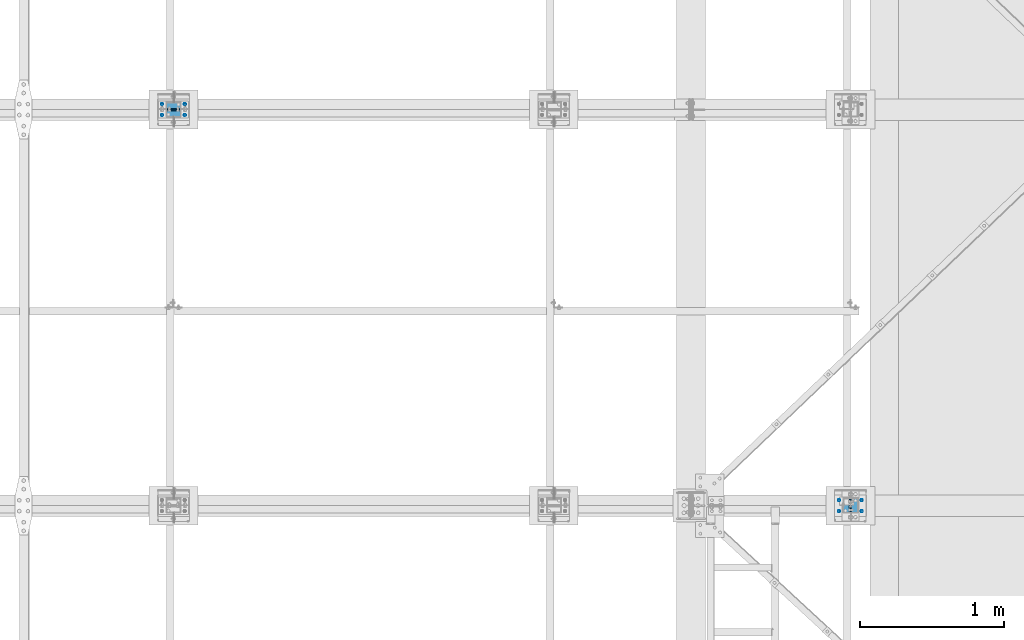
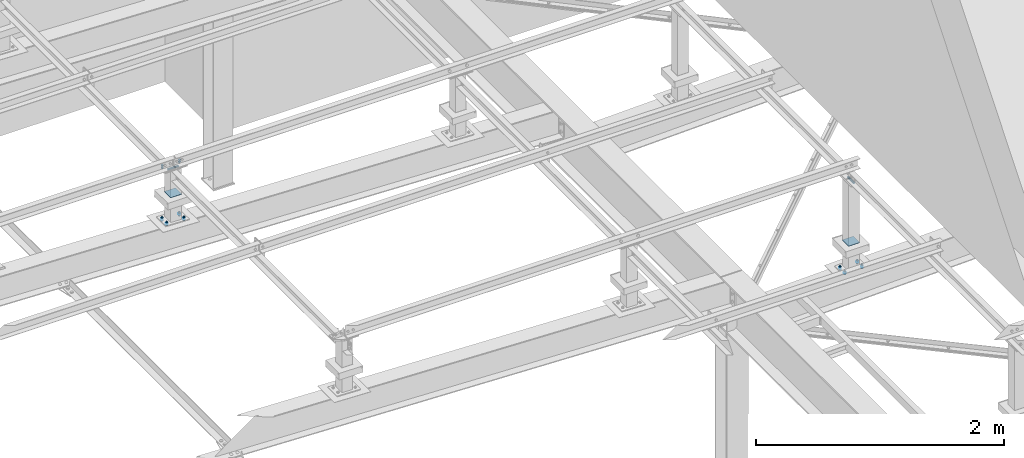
# One storey, part 191 of 3134: 9 mechanical fasteners, 6 elements without a shape of their own.
"""IFC2X3 building model written with IfcOpenShell, lengths in millimetres."""

from ifc_helpers import new_model, si_unit, frame, origin_with_axes, place, context, subcontext, project, spatial, faceted_brep, source, transform, mapped, material, type_object, element, aggregate, save


model = new_model("IFC2X3")

# Units and contexts
model_context = context("Model", 3, precision=1e-05, world=origin_with_axes())
body_context = subcontext(model_context, "Body", "Model", "MODEL_VIEW")
ifc_project = project(units=[si_unit("LENGTHUNIT", "METRE", prefix="MILLI"), si_unit("AREAUNIT", "SQUARE_METRE"), si_unit("VOLUMEUNIT", "CUBIC_METRE"), si_unit("MASSUNIT", "GRAM", prefix="KILO"), si_unit("TIMEUNIT", "SECOND"), si_unit("PLANEANGLEUNIT", "RADIAN"), si_unit("SOLIDANGLEUNIT", "STERADIAN"), si_unit("THERMODYNAMICTEMPERATUREUNIT", "DEGREE_CELSIUS"), si_unit("LUMINOUSINTENSITYUNIT", "LUMEN")], contexts=[model_context])

# Site, building, storey
site_placement = place(None, origin_with_axes())
site = spatial("IfcSite", under=ifc_project, at=site_placement, CompositionType="ELEMENT")
building_placement = place(site_placement, origin_with_axes())
building = spatial("IfcBuilding", under=site, at=building_placement, Name="Undefined", CompositionType="ELEMENT")
storey_placement = place(building_placement, origin_with_axes())
storey = spatial("IfcBuildingStorey", under=building, at=storey_placement, Name="Undefined", CompositionType="ELEMENT", Elevation=0.0)

# Assembly, mechanical fastener
assembly_1_placement = place(storey_placement, origin_with_axes())
assembly_1 = element("IfcElementAssembly", 1, at=assembly_1_placement, inside=storey, AssemblyPlace="NOTDEFINED", PredefinedType="RIGID_FRAME")
ifc_material_1 = material(Name="8.8")
mechanical_fastener_type = type_object("IfcMechanicalFastenerType", Name="Bolt assembly")
shared_shape_1 = source(origin_with_axes(), body_context, "Body", "Brep", [
    faceted_brep([(10.9696551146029, -14.0, 0.0), (5.48482755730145, -14.0, 9.5), (-5.48482755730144, -14.0, 9.5), (-10.9696551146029, -14.0, 1.34339530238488e-15), (-5.48482755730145, -14.0, -9.5), (5.48482755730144, -14.0, -9.50000000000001), (5.48482755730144, -6.0, -9.50000000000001), (-5.48482755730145, -6.0, -9.5), (-10.9696551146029, -6.0, 1.34339530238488e-15), (-5.48482755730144, -6.0, 9.5), (5.48482755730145, -6.0, 9.5), (10.9696551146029, -6.0, 0.0), (6.0, -6.0, 0.0), (5.19615242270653, -6.0, 3.00000000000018), (2.99999999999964, -6.0, 5.19615242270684), (-6.21801588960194e-13, -6.0, 6.0), (-3.00000000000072, -6.0, 5.19615242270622), (-5.19615242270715, -6.0, 2.9999999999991), (-6.0, -6.0, -1.24360317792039e-12), (-5.19615242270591, -6.0, -3.00000000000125), (-2.99999999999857, -6.0, -5.19615242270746), (1.85874342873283e-12, -6.0, -6.0), (3.00000000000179, -6.0, -5.1961524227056), (5.19615242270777, -6.0, -2.99999999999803), (5.19615242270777, 24.0, -2.99999999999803), (3.00000000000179, 24.0, -5.1961524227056), (1.85874342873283e-12, 24.0, -6.0), (-2.99999999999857, 24.0, -5.19615242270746), (-5.19615242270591, 24.0, -3.00000000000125), (-6.0, 24.0, -1.24360317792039e-12), (-5.19615242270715, 24.0, 2.9999999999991), (-3.00000000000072, 24.0, 5.19615242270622), (-6.21801588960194e-13, 24.0, 6.0), (2.99999999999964, 24.0, 5.19615242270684), (5.19615242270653, 24.0, 3.00000000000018), (6.0, 24.0, 0.0), (10.9696551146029, 6.00000000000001, 0.0), (5.48482755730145, 6.00000000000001, 9.5), (-5.48482755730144, 6.00000000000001, 9.5), (-10.9696551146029, 6.00000000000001, 1.34339530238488e-15), (-5.48482755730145, 6.00000000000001, -9.5), (5.48482755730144, 6.00000000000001, -9.50000000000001), (5.48482755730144, 16.0, -9.50000000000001), (-5.48482755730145, 16.0, -9.5), (-10.9696551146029, 16.0, 1.34339530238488e-15), (-5.48482755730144, 16.0, 9.5), (5.48482755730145, 16.0, 9.5), (10.9696551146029, 16.0, 0.0)], [[[0, 1, 2, 3, 4, 5]], [[6, 7, 8, 9, 10, 11]], [[0, 11, 10, 1]], [[1, 10, 9, 2]], [[2, 9, 8, 3]], [[3, 8, 7, 4]], [[4, 7, 6, 5]], [[5, 6, 11, 0]], [[12, 13, 14, 15, 16, 17, 18, 19, 20, 21, 22, 23]], [[24, 25, 26, 27, 28, 29, 30, 31, 32, 33, 34, 35]], [[12, 35, 34, 13]], [[13, 34, 33, 14]], [[14, 33, 32, 15]], [[15, 32, 31, 16]], [[16, 31, 30, 17]], [[17, 30, 29, 18]], [[18, 29, 28, 19]], [[19, 28, 27, 20]], [[20, 27, 26, 21]], [[21, 26, 25, 22]], [[22, 25, 24, 23]], [[23, 24, 35, 12]], [[36, 37, 38, 39, 40, 41]], [[42, 43, 44, 45, 46, 47]], [[36, 47, 46, 37]], [[37, 46, 45, 38]], [[38, 45, 44, 39]], [[39, 44, 43, 40]], [[40, 43, 42, 41]], [[41, 42, 47, 36]]]),
    faceted_brep([(7.0, -0.1, 0.0), (6.06217782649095, -0.1, 3.50000000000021), (3.49999999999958, -0.1, 6.06217782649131), (-7.25435187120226e-13, -0.1, 7.0), (-3.50000000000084, -0.1, 6.06217782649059), (-6.06217782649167, -0.1, 3.49999999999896), (-7.0, -0.1, -1.45087037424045e-12), (-6.06217782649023, -0.1, -3.50000000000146), (-3.49999999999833, -0.1, -6.06217782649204), (2.1685340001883e-12, -0.1, -7.0), (3.50000000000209, -0.1, -6.06217782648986), (6.0621778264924, -0.1, -3.4999999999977), (6.0621778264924, 6.00000000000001, -3.4999999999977), (3.50000000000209, 6.00000000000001, -6.06217782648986), (2.1685340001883e-12, 6.00000000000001, -7.0), (-3.49999999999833, 6.00000000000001, -6.06217782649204), (-6.06217782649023, 6.00000000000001, -3.50000000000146), (-7.0, 6.00000000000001, -1.45087037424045e-12), (-6.06217782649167, 6.00000000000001, 3.49999999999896), (-3.50000000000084, 6.00000000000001, 6.06217782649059), (-7.25435187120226e-13, 6.00000000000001, 7.0), (3.49999999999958, 6.00000000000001, 6.06217782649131), (6.06217782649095, 6.00000000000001, 3.50000000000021), (7.0, 6.00000000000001, 0.0), (7.0, -5.9, 0.0), (6.06217782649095, -5.9, 3.50000000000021), (3.49999999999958, -5.9, 6.06217782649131), (-7.25435187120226e-13, -5.9, 7.0), (-3.50000000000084, -5.9, 6.06217782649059), (-6.06217782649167, -5.9, 3.49999999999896), (-7.0, -5.9, -1.45087037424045e-12), (-6.06217782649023, -5.9, -3.50000000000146), (-3.49999999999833, -5.9, -6.06217782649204), (2.1685340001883e-12, -5.9, -7.0), (3.50000000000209, -5.9, -6.06217782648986), (6.0621778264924, -5.9, -3.4999999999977), (6.0621778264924, 0.0999999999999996, -3.4999999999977), (3.50000000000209, 0.0999999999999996, -6.06217782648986), (2.1685340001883e-12, 0.0999999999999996, -7.0), (-3.49999999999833, 0.0999999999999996, -6.06217782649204), (-6.06217782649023, 0.0999999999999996, -3.50000000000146), (-7.0, 0.0999999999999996, -1.45087037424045e-12), (-6.06217782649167, 0.0999999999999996, 3.49999999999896), (-3.50000000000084, 0.0999999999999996, 6.06217782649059), (-7.25435187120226e-13, 0.0999999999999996, 7.0), (3.49999999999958, 0.0999999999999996, 6.06217782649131), (6.06217782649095, 0.0999999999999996, 3.50000000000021), (7.0, 0.0999999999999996, 0.0)], [[[0, 1, 2, 3, 4, 5, 6, 7, 8, 9, 10, 11]], [[12, 13, 14, 15, 16, 17, 18, 19, 20, 21, 22, 23]], [[0, 23, 22, 1]], [[1, 22, 21, 2]], [[2, 21, 20, 3]], [[3, 20, 19, 4]], [[4, 19, 18, 5]], [[5, 18, 17, 6]], [[6, 17, 16, 7]], [[7, 16, 15, 8]], [[8, 15, 14, 9]], [[9, 14, 13, 10]], [[10, 13, 12, 11]], [[11, 12, 23, 0]], [[24, 25, 26, 27, 28, 29, 30, 31, 32, 33, 34, 35]], [[36, 37, 38, 39, 40, 41, 42, 43, 44, 45, 46, 47]], [[24, 47, 46, 25]], [[25, 46, 45, 26]], [[26, 45, 44, 27]], [[27, 44, 43, 28]], [[28, 43, 42, 29]], [[29, 42, 41, 30]], [[30, 41, 40, 31]], [[31, 40, 39, 32]], [[32, 39, 38, 33]], [[33, 38, 37, 34]], [[34, 37, 36, 35]], [[35, 36, 47, 24]]]),
])
mechanical_fastener_1_placement = place(assembly_1_placement, frame((5691.67, 43043.33, 4365.0), z_axis=(1.0, 0.0, 0.0), x_axis=(0.0, -1.0, 0.0)))
mechanical_fastener_1 = element("IfcMechanicalFastener", 2, at=mechanical_fastener_1_placement, type_object=mechanical_fastener_type, material=ifc_material_1, Name="Bolt assembly", NominalDiameter=12.0, NominalLength=30.0, context=body_context, shape_type="MappedRepresentation", body=[
    mapped(shared_shape_1, transform((0.0, -5.32963895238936e-10, -79.9999999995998))),
    mapped(shared_shape_1, transform((0.0, 5.3114490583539e-10, 79.9999999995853))),
])
aggregate(assembly_1, [mechanical_fastener_1])

assembly_2_placement = place(storey_placement, origin_with_axes())
assembly_2 = element("IfcElementAssembly", 3, at=assembly_2_placement, inside=storey, AssemblyPlace="NOTDEFINED", PredefinedType="RIGID_FRAME")
shared_shape_2 = source(origin_with_axes(), body_context, "Body", "Brep", [
    faceted_brep([(10.9696551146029, -4.18280906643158, 0.0), (5.48482755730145, -4.18280906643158, 9.5), (-5.48482755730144, -4.18280906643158, 9.5), (-10.9696551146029, -4.18280906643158, 1.34339530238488e-15), (-5.48482755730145, -4.18280906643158, -9.5), (5.48482755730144, -4.18280906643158, -9.50000000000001), (5.48482755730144, 3.81719093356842, -9.50000000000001), (-5.48482755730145, 3.81719093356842, -9.5), (-10.9696551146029, 3.81719093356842, 1.34339530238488e-15), (-5.48482755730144, 3.81719093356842, 9.5), (5.48482755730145, 3.81719093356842, 9.5), (10.9696551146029, 3.81719093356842, 0.0), (6.0, 3.81719093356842, 0.0), (5.19615242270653, 3.81719093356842, 3.00000000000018), (2.99999999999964, 3.81719093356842, 5.19615242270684), (-6.21801588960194e-13, 3.81719093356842, 6.0), (-3.00000000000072, 3.81719093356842, 5.19615242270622), (-5.19615242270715, 3.81719093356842, 2.9999999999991), (-6.0, 3.81719093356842, -1.24360317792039e-12), (-5.19615242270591, 3.81719093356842, -3.00000000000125), (-2.99999999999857, 3.81719093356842, -5.19615242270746), (1.85874342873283e-12, 3.81719093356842, -6.0), (3.00000000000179, 3.81719093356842, -5.1961524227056), (5.19615242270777, 3.81719093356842, -2.99999999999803), (5.19615242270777, 38.8171909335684, -2.99999999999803), (3.00000000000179, 38.8171909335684, -5.1961524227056), (1.85874342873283e-12, 38.8171909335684, -6.0), (-2.99999999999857, 38.8171909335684, -5.19615242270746), (-5.19615242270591, 38.8171909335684, -3.00000000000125), (-6.0, 38.8171909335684, -1.24360317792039e-12), (-5.19615242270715, 38.8171909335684, 2.9999999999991), (-3.00000000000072, 38.8171909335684, 5.19615242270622), (-6.21801588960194e-13, 38.8171909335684, 6.0), (2.99999999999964, 38.8171909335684, 5.19615242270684), (5.19615242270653, 38.8171909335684, 3.00000000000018), (6.0, 38.8171909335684, 0.0), (10.9696551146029, 23.0139082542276, 0.0), (5.48482755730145, 23.0139082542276, 9.5), (-5.48482755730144, 23.0139082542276, 9.5), (-10.9696551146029, 23.0139082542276, 1.34339530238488e-15), (-5.48482755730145, 23.0139082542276, -9.5), (5.48482755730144, 23.0139082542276, -9.50000000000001), (5.48482755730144, 33.0139082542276, -9.50000000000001), (-5.48482755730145, 33.0139082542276, -9.5), (-10.9696551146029, 33.0139082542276, 1.34339530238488e-15), (-5.48482755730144, 33.0139082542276, 9.5), (5.48482755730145, 33.0139082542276, 9.5), (10.9696551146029, 33.0139082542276, 0.0)], [[[0, 1, 2, 3, 4, 5]], [[6, 7, 8, 9, 10, 11]], [[0, 11, 10, 1]], [[1, 10, 9, 2]], [[2, 9, 8, 3]], [[3, 8, 7, 4]], [[4, 7, 6, 5]], [[5, 6, 11, 0]], [[12, 13, 14, 15, 16, 17, 18, 19, 20, 21, 22, 23]], [[24, 25, 26, 27, 28, 29, 30, 31, 32, 33, 34, 35]], [[12, 35, 34, 13]], [[13, 34, 33, 14]], [[14, 33, 32, 15]], [[15, 32, 31, 16]], [[16, 31, 30, 17]], [[17, 30, 29, 18]], [[18, 29, 28, 19]], [[19, 28, 27, 20]], [[20, 27, 26, 21]], [[21, 26, 25, 22]], [[22, 25, 24, 23]], [[23, 24, 35, 12]], [[36, 37, 38, 39, 40, 41]], [[42, 43, 44, 45, 46, 47]], [[36, 47, 46, 37]], [[37, 46, 45, 38]], [[38, 45, 44, 39]], [[39, 44, 43, 40]], [[40, 43, 42, 41]], [[41, 42, 47, 36]]]),
    faceted_brep([(7.0, 3.91719093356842, 0.0), (6.06217782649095, 3.91719093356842, 3.50000000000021), (3.49999999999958, 3.91719093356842, 6.06217782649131), (-7.25435187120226e-13, 3.91719093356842, 7.0), (-3.50000000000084, 3.91719093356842, 6.06217782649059), (-6.06217782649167, 3.91719093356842, 3.49999999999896), (-7.0, 3.91719093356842, -1.45087037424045e-12), (-6.06217782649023, 3.91719093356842, -3.50000000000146), (-3.49999999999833, 3.91719093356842, -6.06217782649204), (2.1685340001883e-12, 3.91719093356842, -7.0), (3.50000000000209, 3.91719093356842, -6.06217782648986), (6.0621778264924, 3.91719093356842, -3.4999999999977), (6.0621778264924, 13.1171907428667, -3.4999999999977), (3.50000000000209, 13.1171907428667, -6.06217782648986), (2.1685340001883e-12, 13.1171907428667, -7.0), (-3.49999999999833, 13.1171907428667, -6.06217782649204), (-6.06217782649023, 13.1171907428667, -3.50000000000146), (-7.0, 13.1171907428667, -1.45087037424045e-12), (-6.06217782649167, 13.1171907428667, 3.49999999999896), (-3.50000000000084, 13.1171907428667, 6.06217782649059), (-7.25435187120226e-13, 13.1171907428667, 7.0), (3.49999999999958, 13.1171907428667, 6.06217782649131), (6.06217782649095, 13.1171907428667, 3.50000000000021), (7.0, 13.1171907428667, 0.0), (7.0, 14.9139082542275, 0.0), (6.06217782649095, 14.9139082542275, 3.50000000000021), (3.49999999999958, 14.9139082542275, 6.06217782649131), (-7.25435187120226e-13, 14.9139082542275, 7.0), (-3.50000000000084, 14.9139082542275, 6.06217782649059), (-6.06217782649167, 14.9139082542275, 3.49999999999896), (-7.0, 14.9139082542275, -1.45087037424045e-12), (-6.06217782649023, 14.9139082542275, -3.50000000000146), (-3.49999999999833, 14.9139082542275, -6.06217782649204), (2.1685340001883e-12, 14.9139082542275, -7.0), (3.50000000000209, 14.9139082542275, -6.06217782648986), (6.0621778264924, 14.9139082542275, -3.4999999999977), (6.0621778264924, 23.0139082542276, -3.4999999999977), (3.50000000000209, 23.0139082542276, -6.06217782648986), (2.1685340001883e-12, 23.0139082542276, -7.0), (-3.49999999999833, 23.0139082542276, -6.06217782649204), (-6.06217782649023, 23.0139082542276, -3.50000000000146), (-7.0, 23.0139082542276, -1.45087037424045e-12), (-6.06217782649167, 23.0139082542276, 3.49999999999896), (-3.50000000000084, 23.0139082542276, 6.06217782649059), (-7.25435187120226e-13, 23.0139082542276, 7.0), (3.49999999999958, 23.0139082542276, 6.06217782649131), (6.06217782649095, 23.0139082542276, 3.50000000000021), (7.0, 23.0139082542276, 0.0)], [[[0, 1, 2, 3, 4, 5, 6, 7, 8, 9, 10, 11]], [[12, 13, 14, 15, 16, 17, 18, 19, 20, 21, 22, 23]], [[0, 23, 22, 1]], [[1, 22, 21, 2]], [[2, 21, 20, 3]], [[3, 20, 19, 4]], [[4, 19, 18, 5]], [[5, 18, 17, 6]], [[6, 17, 16, 7]], [[7, 16, 15, 8]], [[8, 15, 14, 9]], [[9, 14, 13, 10]], [[10, 13, 12, 11]], [[11, 12, 23, 0]], [[24, 25, 26, 27, 28, 29, 30, 31, 32, 33, 34, 35]], [[36, 37, 38, 39, 40, 41, 42, 43, 44, 45, 46, 47]], [[24, 47, 46, 25]], [[25, 46, 45, 26]], [[26, 45, 44, 27]], [[27, 44, 43, 28]], [[28, 43, 42, 29]], [[29, 42, 41, 30]], [[30, 41, 40, 31]], [[31, 40, 39, 32]], [[32, 39, 38, 33]], [[33, 38, 37, 34]], [[34, 37, 36, 35]], [[35, 36, 47, 24]]]),
])
mechanical_fastener_2_placement = place(assembly_2_placement, frame((5690.86474073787, 43046.3299999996, 3827.79222028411), z_axis=(-0.999387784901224, 0.0, 0.0349865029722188), x_axis=(0.0, -1.0, 0.0)))
mechanical_fastener_2 = element("IfcMechanicalFastener", 4, at=mechanical_fastener_2_placement, type_object=mechanical_fastener_type, material=ifc_material_1, Name="Bolt assembly", NominalDiameter=12.0, NominalLength=35.0, context=body_context, shape_type="MappedRepresentation", body=[
    mapped(shared_shape_2, transform((0.0, -5.32963895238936e-10, -79.9999999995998))),
    mapped(shared_shape_2, transform((76.0, -5.32963895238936e-10, -79.9999999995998))),
    mapped(shared_shape_2, transform((0.0, 5.3114490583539e-10, 79.9999999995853))),
    mapped(shared_shape_2, transform((76.0, 5.3114490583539e-10, 79.9999999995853))),
])

assembly_3_placement = place(storey_placement, origin_with_axes())
assembly_3 = element("IfcElementAssembly", 5, at=assembly_3_placement, inside=storey, Name="300", AssemblyPlace="NOTDEFINED", PredefinedType="RIGID_FRAME")
shared_shape_3 = source(origin_with_axes(), body_context, "Body", "Brep", [
    faceted_brep([(10.9696551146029, -4.1984682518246, 0.0), (5.48482755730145, -4.1984682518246, 9.5), (-5.48482755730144, -4.1984682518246, 9.5), (-10.9696551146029, -4.1984682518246, 1.34339530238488e-15), (-5.48482755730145, -4.1984682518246, -9.5), (5.48482755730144, -4.1984682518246, -9.50000000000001), (5.48482755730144, 3.8015317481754, -9.50000000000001), (-5.48482755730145, 3.8015317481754, -9.5), (-10.9696551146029, 3.8015317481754, 1.34339530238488e-15), (-5.48482755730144, 3.8015317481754, 9.5), (5.48482755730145, 3.8015317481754, 9.5), (10.9696551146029, 3.8015317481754, 0.0), (6.0, 3.8015317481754, 0.0), (5.19615242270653, 3.8015317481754, 3.00000000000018), (2.99999999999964, 3.8015317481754, 5.19615242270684), (-6.21801588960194e-13, 3.8015317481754, 6.0), (-3.00000000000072, 3.8015317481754, 5.19615242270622), (-5.19615242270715, 3.8015317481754, 2.9999999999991), (-6.0, 3.8015317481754, -1.24360317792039e-12), (-5.19615242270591, 3.8015317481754, -3.00000000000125), (-2.99999999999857, 3.8015317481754, -5.19615242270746), (1.85874342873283e-12, 3.8015317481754, -6.0), (3.00000000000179, 3.8015317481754, -5.1961524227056), (5.19615242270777, 3.8015317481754, -2.99999999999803), (5.19615242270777, 38.8015317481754, -2.99999999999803), (3.00000000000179, 38.8015317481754, -5.1961524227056), (1.85874342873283e-12, 38.8015317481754, -6.0), (-2.99999999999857, 38.8015317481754, -5.19615242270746), (-5.19615242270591, 38.8015317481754, -3.00000000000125), (-6.0, 38.8015317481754, -1.24360317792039e-12), (-5.19615242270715, 38.8015317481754, 2.9999999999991), (-3.00000000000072, 38.8015317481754, 5.19615242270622), (-6.21801588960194e-13, 38.8015317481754, 6.0), (2.99999999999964, 38.8015317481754, 5.19615242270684), (5.19615242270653, 38.8015317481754, 3.00000000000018), (6.0, 38.8015317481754, 0.0), (10.9696551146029, 23.0039050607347, 0.0), (5.48482755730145, 23.0039050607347, 9.5), (-5.48482755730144, 23.0039050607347, 9.5), (-10.9696551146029, 23.0039050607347, 1.34339530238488e-15), (-5.48482755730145, 23.0039050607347, -9.5), (5.48482755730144, 23.0039050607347, -9.50000000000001), (5.48482755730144, 33.0039050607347, -9.50000000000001), (-5.48482755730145, 33.0039050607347, -9.5), (-10.9696551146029, 33.0039050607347, 1.34339530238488e-15), (-5.48482755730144, 33.0039050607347, 9.5), (5.48482755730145, 33.0039050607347, 9.5), (10.9696551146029, 33.0039050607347, 0.0)], [[[0, 1, 2, 3, 4, 5]], [[6, 7, 8, 9, 10, 11]], [[0, 11, 10, 1]], [[1, 10, 9, 2]], [[2, 9, 8, 3]], [[3, 8, 7, 4]], [[4, 7, 6, 5]], [[5, 6, 11, 0]], [[12, 13, 14, 15, 16, 17, 18, 19, 20, 21, 22, 23]], [[24, 25, 26, 27, 28, 29, 30, 31, 32, 33, 34, 35]], [[12, 35, 34, 13]], [[13, 34, 33, 14]], [[14, 33, 32, 15]], [[15, 32, 31, 16]], [[16, 31, 30, 17]], [[17, 30, 29, 18]], [[18, 29, 28, 19]], [[19, 28, 27, 20]], [[20, 27, 26, 21]], [[21, 26, 25, 22]], [[22, 25, 24, 23]], [[23, 24, 35, 12]], [[36, 37, 38, 39, 40, 41]], [[42, 43, 44, 45, 46, 47]], [[36, 47, 46, 37]], [[37, 46, 45, 38]], [[38, 45, 44, 39]], [[39, 44, 43, 40]], [[40, 43, 42, 41]], [[41, 42, 47, 36]]]),
    faceted_brep([(7.0, 14.9039050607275, 0.0), (6.06217782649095, 14.9039050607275, 3.50000000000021), (3.49999999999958, 14.9039050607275, 6.06217782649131), (-7.25435187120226e-13, 14.9039050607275, 7.0), (-3.50000000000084, 14.9039050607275, 6.06217782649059), (-6.06217782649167, 14.9039050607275, 3.49999999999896), (-7.0, 14.9039050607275, -1.45087037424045e-12), (-6.06217782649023, 14.9039050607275, -3.50000000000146), (-3.49999999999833, 14.9039050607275, -6.06217782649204), (2.1685340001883e-12, 14.9039050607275, -7.0), (3.50000000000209, 14.9039050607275, -6.06217782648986), (6.0621778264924, 14.9039050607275, -3.4999999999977), (6.0621778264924, 23.0039050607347, -3.4999999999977), (3.50000000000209, 23.0039050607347, -6.06217782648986), (2.1685340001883e-12, 23.0039050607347, -7.0), (-3.49999999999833, 23.0039050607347, -6.06217782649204), (-6.06217782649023, 23.0039050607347, -3.50000000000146), (-7.0, 23.0039050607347, -1.45087037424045e-12), (-6.06217782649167, 23.0039050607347, 3.49999999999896), (-3.50000000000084, 23.0039050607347, 6.06217782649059), (-7.25435187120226e-13, 23.0039050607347, 7.0), (3.49999999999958, 23.0039050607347, 6.06217782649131), (6.06217782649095, 23.0039050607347, 3.50000000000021), (7.0, 23.0039050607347, 0.0), (7.0, 3.9015317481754, 0.0), (6.06217782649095, 3.9015317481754, 3.50000000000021), (3.49999999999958, 3.9015317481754, 6.06217782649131), (-7.25435187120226e-13, 3.9015317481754, 7.0), (-3.50000000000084, 3.9015317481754, 6.06217782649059), (-6.06217782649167, 3.9015317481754, 3.49999999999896), (-7.0, 3.9015317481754, -1.45087037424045e-12), (-6.06217782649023, 3.9015317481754, -3.50000000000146), (-3.49999999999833, 3.9015317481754, -6.06217782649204), (2.1685340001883e-12, 3.9015317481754, -7.0), (3.50000000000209, 3.9015317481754, -6.06217782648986), (6.0621778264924, 3.9015317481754, -3.4999999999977), (6.0621778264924, 13.1015315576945, -3.4999999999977), (3.50000000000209, 13.1015315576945, -6.06217782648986), (2.1685340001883e-12, 13.1015315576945, -7.0), (-3.49999999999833, 13.1015315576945, -6.06217782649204), (-6.06217782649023, 13.1015315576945, -3.50000000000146), (-7.0, 13.1015315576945, -1.45087037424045e-12), (-6.06217782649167, 13.1015315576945, 3.49999999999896), (-3.50000000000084, 13.1015315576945, 6.06217782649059), (-7.25435187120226e-13, 13.1015315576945, 7.0), (3.49999999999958, 13.1015315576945, 6.06217782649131), (6.06217782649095, 13.1015315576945, 3.50000000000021), (7.0, 13.1015315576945, 0.0)], [[[0, 1, 2, 3, 4, 5, 6, 7, 8, 9, 10, 11]], [[12, 13, 14, 15, 16, 17, 18, 19, 20, 21, 22, 23]], [[0, 23, 22, 1]], [[1, 22, 21, 2]], [[2, 21, 20, 3]], [[3, 20, 19, 4]], [[4, 19, 18, 5]], [[5, 18, 17, 6]], [[6, 17, 16, 7]], [[7, 16, 15, 8]], [[8, 15, 14, 9]], [[9, 14, 13, 10]], [[10, 13, 12, 11]], [[11, 12, 23, 0]], [[24, 25, 26, 27, 28, 29, 30, 31, 32, 33, 34, 35]], [[36, 37, 38, 39, 40, 41, 42, 43, 44, 45, 46, 47]], [[24, 47, 46, 25]], [[25, 46, 45, 26]], [[26, 45, 44, 27]], [[27, 44, 43, 28]], [[28, 43, 42, 29]], [[29, 42, 41, 30]], [[30, 41, 40, 31]], [[31, 40, 39, 32]], [[32, 39, 38, 33]], [[33, 38, 37, 34]], [[34, 37, 36, 35]], [[35, 36, 47, 24]]]),
])
mechanical_fastener_3_placement = place(assembly_3_placement, frame((10405.7748812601, 40212.0, 3374.2272055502), z_axis=(0.999519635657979, 0.0, 0.0309919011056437), x_axis=(0.0, 1.0, 0.0)))
mechanical_fastener_3 = element("IfcMechanicalFastener", 6, at=mechanical_fastener_3_placement, type_object=mechanical_fastener_type, material=ifc_material_1, Name="Bolt assembly", NominalDiameter=12.0, NominalLength=35.0, context=body_context, shape_type="MappedRepresentation", body=[
    mapped(shared_shape_3, transform((0.0, -5.32963895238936e-10, -79.9999999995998))),
    mapped(shared_shape_3, transform((76.0, -5.32963895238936e-10, -79.9999999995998))),
    mapped(shared_shape_3, transform((0.0, 5.3114490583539e-10, 79.9999999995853))),
    mapped(shared_shape_3, transform((76.0, 5.3114490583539e-10, 79.9999999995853))),
])
aggregate(assembly_3, [mechanical_fastener_3])

assembly_4_placement = place(storey_placement, origin_with_axes())
assembly_4 = element("IfcElementAssembly", 7, at=assembly_4_placement, inside=storey, AssemblyPlace="NOTDEFINED", PredefinedType="RIGID_FRAME")
shared_shape_4 = source(origin_with_axes(), body_context, "Body", "Brep", [
    faceted_brep([(7.0, 13.0000253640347, 0.0), (6.06217782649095, 13.0000253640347, 3.50000000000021), (3.49999999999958, 13.0000253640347, 6.06217782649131), (-7.25435187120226e-13, 13.0000253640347, 7.0), (-3.50000000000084, 13.0000253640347, 6.06217782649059), (-6.06217782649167, 13.0000253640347, 3.49999999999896), (-7.0, 13.0000253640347, -1.45087037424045e-12), (-6.06217782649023, 13.0000253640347, -3.50000000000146), (-3.49999999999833, 13.0000253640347, -6.06217782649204), (2.1685340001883e-12, 13.0000253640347, -7.0), (3.50000000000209, 13.0000253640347, -6.06217782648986), (6.0621778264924, 13.0000253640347, -3.4999999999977), (6.0621778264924, 15.0999999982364, -3.4999999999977), (3.50000000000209, 15.0999999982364, -6.06217782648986), (2.1685340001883e-12, 15.0999999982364, -7.0), (-3.49999999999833, 15.0999999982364, -6.06217782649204), (-6.06217782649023, 15.0999999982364, -3.50000000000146), (-7.0, 15.0999999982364, -1.45087037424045e-12), (-6.06217782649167, 15.0999999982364, 3.49999999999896), (-3.50000000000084, 15.0999999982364, 6.06217782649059), (-7.25435187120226e-13, 15.0999999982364, 7.0), (3.49999999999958, 15.0999999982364, 6.06217782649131), (6.06217782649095, 15.0999999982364, 3.50000000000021), (7.0, 15.0999999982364, 0.0)], [[[0, 1, 2, 3, 4, 5, 6, 7, 8, 9, 10, 11]], [[12, 13, 14, 15, 16, 17, 18, 19, 20, 21, 22, 23]], [[0, 23, 22, 1]], [[1, 22, 21, 2]], [[2, 21, 20, 3]], [[3, 20, 19, 4]], [[4, 19, 18, 5]], [[5, 18, 17, 6]], [[6, 17, 16, 7]], [[7, 16, 15, 8]], [[8, 15, 14, 9]], [[9, 14, 13, 10]], [[10, 13, 12, 11]], [[11, 12, 23, 0]]]),
])
mechanical_fastener_4_placement = place(assembly_4_placement, frame((10405.7748812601, 40212.0, 3374.2272055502), z_axis=(0.999519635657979, 0.0, 0.0309919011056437), x_axis=(0.0, 1.0, 0.0)))
mechanical_fastener_4 = element("IfcMechanicalFastener", 8, at=mechanical_fastener_4_placement, type_object=mechanical_fastener_type, material=ifc_material_1, Name="Bolt assembly", NominalDiameter=12.0, NominalLength=2.0, context=body_context, shape_type="MappedRepresentation", body=[
    mapped(shared_shape_4, transform((0.0, -5.32963895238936e-10, -79.9999999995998))),
    mapped(shared_shape_4, transform((76.0, -5.32963895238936e-10, -79.9999999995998))),
    mapped(shared_shape_4, transform((0.0, 5.3114490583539e-10, 79.9999999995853))),
    mapped(shared_shape_4, transform((76.0, 5.3114490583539e-10, 79.9999999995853))),
])
aggregate(assembly_4, [mechanical_fastener_4])

assembly_5_placement = place(storey_placement, origin_with_axes())
assembly_5 = element("IfcElementAssembly", 9, at=assembly_5_placement, inside=storey, AssemblyPlace="NOTDEFINED", PredefinedType="RIGID_FRAME")
mechanical_fastener_5_placement = place(assembly_5_placement, frame((5690.86474073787, 43046.3299999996, 3827.79222028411), z_axis=(-0.999387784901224, 0.0, 0.0349865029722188), x_axis=(0.0, -1.0, 0.0)))
mechanical_fastener_5 = element("IfcMechanicalFastener", 10, at=mechanical_fastener_5_placement, type_object=mechanical_fastener_type, material=ifc_material_1, Name="Bolt assembly", NominalDiameter=12.0, NominalLength=2.0, context=body_context, shape_type="MappedRepresentation", body=[
    mapped(shared_shape_4, transform((0.0, -5.32963895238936e-10, -79.9999999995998))),
    mapped(shared_shape_4, transform((76.0, -5.32963895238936e-10, -79.9999999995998))),
    mapped(shared_shape_4, transform((0.0, 5.3114490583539e-10, 79.9999999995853))),
    mapped(shared_shape_4, transform((76.0, 5.3114490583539e-10, 79.9999999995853))),
])
aggregate(assembly_5, [mechanical_fastener_5])

assembly_6_placement = place(storey_placement, origin_with_axes())
assembly_6 = element("IfcElementAssembly", 11, at=assembly_6_placement, inside=storey, AssemblyPlace="NOTDEFINED", PredefinedType="RIGID_FRAME")
shared_shape_5 = source(origin_with_axes(), body_context, "Body", "Brep", [
    faceted_brep([(9.0, -50.0, 0.0), (7.79422863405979, -50.0, 4.50000000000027), (4.49999999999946, -50.0, 7.79422863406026), (-9.3270238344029e-13, -50.0, 9.0), (-4.50000000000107, -50.0, 7.79422863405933), (-7.79422863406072, -50.0, 4.49999999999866), (-9.0, -50.0, -1.86540476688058e-12), (-7.79422863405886, -50.0, -4.50000000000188), (-4.49999999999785, -50.0, -7.79422863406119), (2.78811514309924e-12, -50.0, -9.0), (4.50000000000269, -50.0, -7.7942286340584), (7.79422863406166, -50.0, -4.49999999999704), (7.79422863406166, 50.1, -4.49999999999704), (4.50000000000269, 50.1, -7.7942286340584), (2.78811514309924e-12, 50.1, -9.0), (-4.49999999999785, 50.1, -7.79422863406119), (-7.79422863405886, 50.1, -4.50000000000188), (-9.0, 50.1, -1.86540476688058e-12), (-7.79422863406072, 50.1, 4.49999999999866), (-4.50000000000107, 50.1, 7.79422863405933), (-9.3270238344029e-13, 50.1, 9.0), (4.49999999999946, 50.1, 7.79422863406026), (7.79422863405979, 50.1, 4.50000000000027), (9.0, 50.1, 0.0)], [[[0, 1, 2, 3, 4, 5, 6, 7, 8, 9, 10, 11]], [[12, 13, 14, 15, 16, 17, 18, 19, 20, 21, 22, 23]], [[0, 23, 22, 1]], [[1, 22, 21, 2]], [[2, 21, 20, 3]], [[3, 20, 19, 4]], [[4, 19, 18, 5]], [[5, 18, 17, 6]], [[6, 17, 16, 7]], [[7, 16, 15, 8]], [[8, 15, 14, 9]], [[9, 14, 13, 10]], [[10, 13, 12, 11]], [[11, 12, 23, 0]]]),
])
mechanical_fastener_6_placement = place(assembly_6_placement, frame((10405.0, 40250.0, 4245.0), z_axis=(-1.0, 0.0, 0.0), x_axis=(0.0, 0.0, 1.0)))
mechanical_fastener_6 = element("IfcMechanicalFastener", 12, at=mechanical_fastener_6_placement, type_object=mechanical_fastener_type, material=ifc_material_1, Name="Bolt assembly", NominalDiameter=16.0, NominalLength=100.0, context=body_context, shape_type="MappedRepresentation", body=[
    mapped(shared_shape_5, transform((0.0, 0.0, 0.0))),
])

# Mechanical fastener
mechanical_fastener_7_placement = place(assembly_2_placement, frame((5691.67, 43008.33, 4345.0), z_axis=(0.0, 1.0, 0.0), x_axis=(0.0, 0.0, 1.0)))
mechanical_fastener_7 = element("IfcMechanicalFastener", 13, at=mechanical_fastener_7_placement, type_object=mechanical_fastener_type, material=ifc_material_1, Name="Bolt assembly", NominalDiameter=16.0, NominalLength=100.0, context=body_context, shape_type="MappedRepresentation", body=[
    mapped(shared_shape_5, transform((0.0, 0.0, 0.0))),
])

ifc_material_2 = material(Name="6.8")
shared_shape_6 = source(origin_with_axes(), body_context, "Body", "Brep", [
    faceted_brep([(51.5, 1.36424205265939e-12, 50.0), (51.3858192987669, 1.36424205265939e-12, 50.5740251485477), (51.0606601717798, 1.36424205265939e-12, 51.0606601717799), (50.5740251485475, 1.36424205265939e-12, 51.385819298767), (-50.0000000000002, 1.36424205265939e-12, 51.5), (-50.7500000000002, 1.36424205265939e-12, 51.2990381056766), (-51.2990381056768, 1.36424205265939e-12, 50.7499999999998), (-51.5, 1.36424205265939e-12, 49.9999999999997), (-51.5, 1.36424205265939e-12, -50.0000000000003), (-51.2990381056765, 1.36424205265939e-12, -50.7500000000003), (-50.7499999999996, 1.36424205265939e-12, -51.2990381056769), (-49.9999999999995, 1.36424205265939e-12, -51.5), (50.0000000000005, 1.36424205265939e-12, -51.5), (50.7500000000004, 1.36424205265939e-12, -51.2990381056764), (51.2990381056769, 1.36424205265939e-12, -50.7499999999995), (51.5, 1.36424205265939e-12, -49.9999999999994), (51.5, 5.10000000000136, -49.9999999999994), (51.2990381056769, 5.10000000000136, -50.7499999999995), (50.7500000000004, 5.10000000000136, -51.2990381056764), (50.0000000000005, 5.10000000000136, -51.5), (-49.9999999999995, 5.10000000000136, -51.5), (-50.7499999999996, 5.10000000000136, -51.2990381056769), (-51.2990381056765, 5.10000000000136, -50.7500000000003), (-51.5, 5.10000000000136, -50.0000000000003), (-51.5, 5.10000000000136, 49.9999999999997), (-51.2990381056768, 5.10000000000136, 50.7499999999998), (-50.7500000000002, 5.10000000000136, 51.2990381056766), (-50.0000000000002, 5.10000000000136, 51.5), (50.5740251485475, 5.10000000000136, 51.385819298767), (51.0606601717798, 5.10000000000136, 51.0606601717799), (51.3858192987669, 5.10000000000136, 50.5740251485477), (51.5, 5.10000000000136, 50.0)], [[[0, 1, 2, 3, 4, 5, 6, 7, 8, 9, 10, 11, 12, 13, 14, 15]], [[16, 17, 18, 19, 20, 21, 22, 23, 24, 25, 26, 27, 28, 29, 30, 31]], [[0, 31, 30, 1]], [[1, 30, 29, 2]], [[2, 29, 28, 3]], [[3, 28, 27, 4]], [[4, 27, 26, 5]], [[5, 26, 25, 6]], [[6, 25, 24, 7]], [[7, 24, 23, 8]], [[8, 23, 22, 9]], [[9, 22, 21, 10]], [[10, 21, 20, 11]], [[11, 20, 19, 12]], [[12, 19, 18, 13]], [[13, 18, 17, 14]], [[14, 17, 16, 15]], [[15, 16, 31, 0]]]),
])
mechanical_fastener_8_placement = place(assembly_6_placement, frame((10405.0, 40250.0, 3643.81), z_axis=(0.0, -1.0, 0.0), x_axis=(-1.0, 0.0, 0.0)))
mechanical_fastener_8 = element("IfcMechanicalFastener", 14, at=mechanical_fastener_8_placement, type_object=mechanical_fastener_type, material=ifc_material_2, Name="Bolt assembly", NominalDiameter=10.0, NominalLength=5.0, context=body_context, shape_type="MappedRepresentation", body=[
    mapped(shared_shape_6, transform((0.0, 0.0, 0.0))),
])

aggregate(assembly_6, [mechanical_fastener_6, mechanical_fastener_8])

mechanical_fastener_9_placement = place(assembly_2_placement, frame((5691.66156415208, 43008.33, 4097.5922136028), z_axis=(0.0, -1.0, 0.0), x_axis=(-1.0, 0.0, 0.0)))
mechanical_fastener_9 = element("IfcMechanicalFastener", 15, at=mechanical_fastener_9_placement, type_object=mechanical_fastener_type, material=ifc_material_2, Name="Bolt assembly", NominalDiameter=10.0, NominalLength=5.0, context=body_context, shape_type="MappedRepresentation", body=[
    mapped(shared_shape_6, transform((0.0, 0.0, 0.0))),
])

aggregate(assembly_2, [mechanical_fastener_2, mechanical_fastener_9, mechanical_fastener_7])

save(model, "model.ifc")
